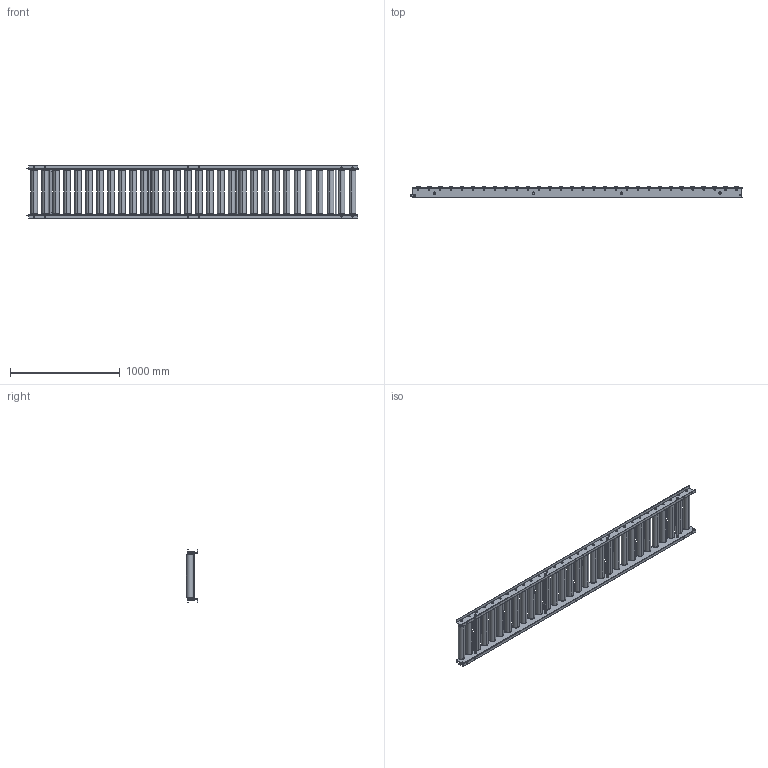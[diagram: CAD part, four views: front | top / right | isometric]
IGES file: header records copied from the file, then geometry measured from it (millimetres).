
Start section: SolidWorks IGES file using analytic representation for surfaces
Global section: file name: C:\Users\0656\Desktop\変換ツール\iges変換\RB-6023D.igs; native system: SolidWorks 2023; preprocessor: SolidWorks 2023; author: 0656; date: 240220.201447; units: millimetre
Bounding box: 3025 x 101.75 x 475 mm (x, y, z)
Surface area: 5718169.3 mm2 (no closed solid volume)
Topology: 0 solids, 0 shells, 1280 faces, 26148 edges, 26148 vertices
Faces by surface type: revolution 670, bspline 610
